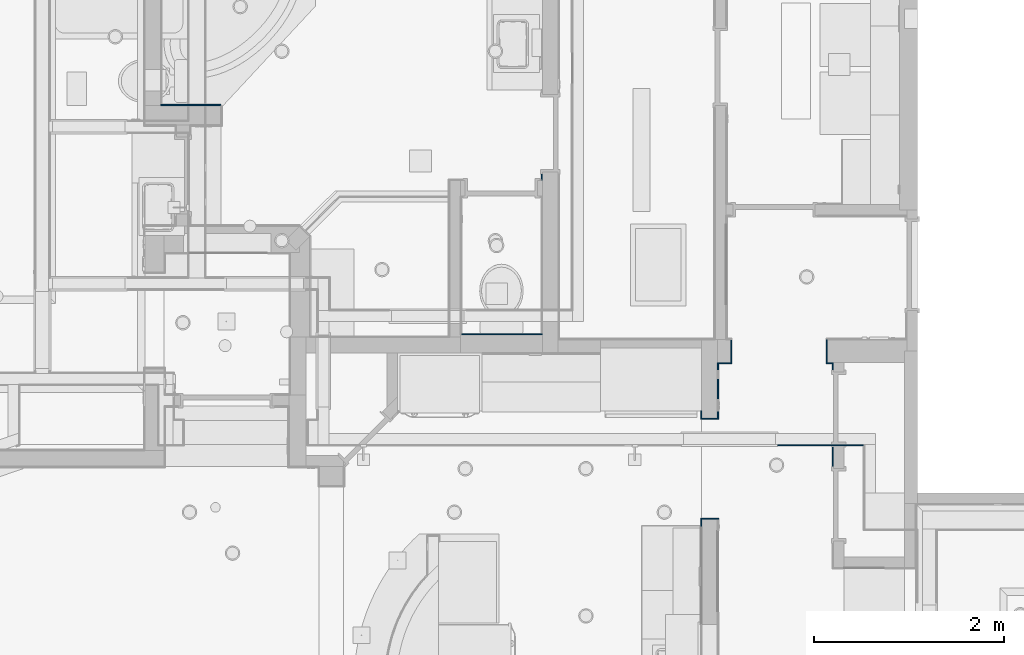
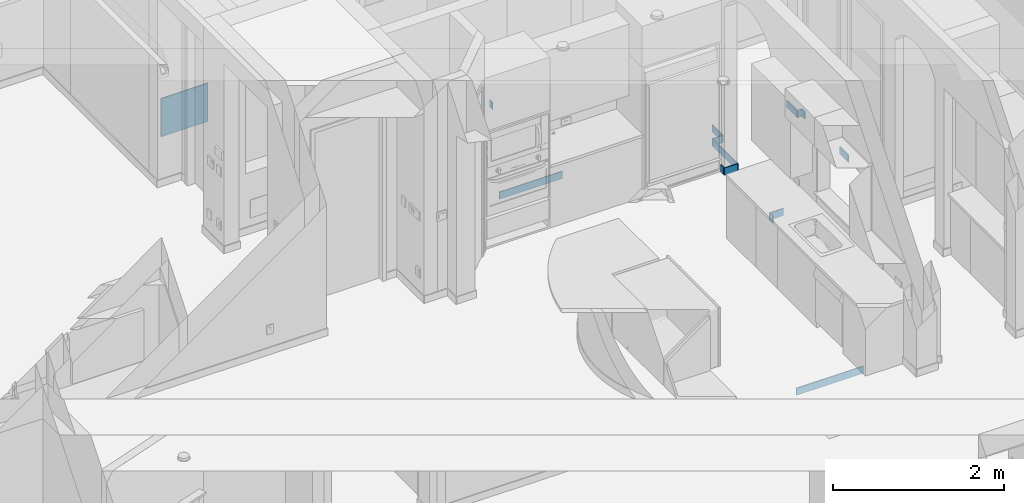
# One storey, part 23 of 60: 15 walls.
"""IFC2X3 building model written with IfcOpenShell, lengths in feet."""

import ifcopenshell
import ifcopenshell.guid

model = None  # the IFC model being written
_history = None  # IfcOwnerHistory: only IFC2X3 demands one
_inside = {}  # id of a spatial element -> (the spatial element, [elements in it])
_under = {}  # id of a project, library or spatial element -> (it, [spatial elements below it])
_declared = {}  # id of a project -> (the project, [libraries it declares])
_typed = {}  # id of a type object -> (the type object, [elements of that type])
_made_of = {}  # id of a material, layer set ... -> (it, [elements and type objects made of it])


def new_model(schema):
    """Start an empty IFC model of exactly this schema.

    Asked for "IFC4X3", IfcOpenShell would pick the latest addendum, in which some entities
    have other attributes; the version numbers below select the first issue.
    IFC2X3 requires an IfcOwnerHistory on every rooted entity: one is made here for all.
    """
    global model, _history
    if schema == "IFC4X3":
        model = ifcopenshell.file(schema_version=(4, 3, 0, 0))
    else:
        model = ifcopenshell.file(schema=schema)
    _inside.clear()
    _under.clear()
    _declared.clear()
    _typed.clear()
    _made_of.clear()
    _history = None
    if model.schema == "IFC2X3":
        org = make("IfcOrganization", Name="unknown")
        user = make(
            "IfcPersonAndOrganization",
            ThePerson=make("IfcPerson", FamilyName="unknown"),
            TheOrganization=org,
        )
        app = make(
            "IfcApplication",
            ApplicationDeveloper=org,
            Version="unknown",
            ApplicationFullName="unknown",
            ApplicationIdentifier="unknown",
        )
        _history = make(
            "IfcOwnerHistory",
            OwningUser=user,
            OwningApplication=app,
            ChangeAction="ADDED",
            CreationDate=0,
        )
    return model


def make(cls, **values):
    """One entity of the class cls with the attributes given. An attribute that is None is left unset."""
    return model.create_entity(
        cls, **{name: value for name, value in values.items() if value is not None}
    )


def entity(cls, *values):
    """Any entity or typed value of the class cls, its attributes in the order of the schema. None: left unset."""
    e = model.create_entity(cls)
    for i, value in enumerate(values):
        if value is not None:
            e[i] = value
    return e


def rooted(cls, **values):
    """An entity with a GlobalId (a new one), such as an element, a storey or a relation."""
    return make(cls, GlobalId=ifcopenshell.guid.new(), OwnerHistory=_history, **values)


def si_unit(unit_type, name, prefix=None):
    """IfcSIUnit, for example si_unit("LENGTHUNIT", "METRE", prefix="MILLI")."""
    return make("IfcSIUnit", UnitType=unit_type, Prefix=prefix, Name=name)


def converted_unit(unit_type, name, factor, base, dimensions=None, offset=None):
    """IfcConversionBasedUnit, such as the inch: factor (a typed value) times the base unit."""
    return make(
        "IfcConversionBasedUnit"
        if offset is None
        else "IfcConversionBasedUnitWithOffset",
        ConversionOffset=offset,
        Dimensions=None
        if dimensions is None
        else entity("IfcDimensionalExponents", *dimensions),
        UnitType=unit_type,
        Name=name,
        ConversionFactor=make(
            "IfcMeasureWithUnit", ValueComponent=factor, UnitComponent=base
        ),
    )


def assignment(units):
    """IfcUnitAssignment: the units of a project."""
    return None if units is None else make("IfcUnitAssignment", Units=units)


def point(xyz):
    """IfcCartesianPoint."""
    return None if xyz is None else make("IfcCartesianPoint", Coordinates=xyz)


def direction(xyz):
    """IfcDirection."""
    return None if xyz is None else make("IfcDirection", DirectionRatios=xyz)


def frame(location, z_axis=None, x_axis=None):
    """IfcAxis2Placement3D, a coordinate frame: its origin and axes. An axis left out is left unset."""
    return make(
        "IfcAxis2Placement3D",
        Location=point(location),
        Axis=direction(z_axis),
        RefDirection=direction(x_axis),
    )


def frame_2d(location, x_axis=None):
    """IfcAxis2Placement2D, a coordinate frame in the plane: its origin and x axis."""
    return make(
        "IfcAxis2Placement2D", Location=point(location), RefDirection=direction(x_axis)
    )


def origin():
    """The frame at (0, 0, 0) with its axes left unset."""
    return frame((0.0, 0.0, 0.0))


def place(relative_to, where):
    """IfcLocalPlacement: puts the frame where relative to a parent placement (None: the world)."""
    return make(
        "IfcLocalPlacement", PlacementRelTo=relative_to, RelativePlacement=where
    )


def context(
    kind, dimensions, precision=None, world=None, true_north=None, identifier=None
):
    """IfcGeometricRepresentationContext, for example the 3D "Model" context."""
    return make(
        "IfcGeometricRepresentationContext",
        ContextIdentifier=identifier,
        ContextType=kind,
        CoordinateSpaceDimension=dimensions,
        Precision=precision,
        WorldCoordinateSystem=world,
        TrueNorth=true_north,
    )


def subcontext(parent, identifier, kind, view, scale=None):
    """IfcGeometricRepresentationSubContext, for example "Body" below "Model"."""
    return make(
        "IfcGeometricRepresentationSubContext",
        ContextIdentifier=identifier,
        ContextType=kind,
        ParentContext=parent,
        TargetScale=scale,
        TargetView=view,
    )


def project(units=None, contexts=None):
    """IfcProject with its units and contexts."""
    return rooted(
        "IfcProject",
        Name="project",
        RepresentationContexts=contexts,
        UnitsInContext=assignment(units),
    )


def spatial(cls, under=None, at=None, **own):
    """A site, building, storey or space (cls), placed at a placement, below another one or the project."""
    s = rooted(cls, ObjectPlacement=at, **own)
    if under is not None:
        _under.setdefault(under.id(), (under, []))[1].append(s)
    return s


def profile(cls, at=None, kind="AREA", **sizes):
    """A parametric profile (cls). Its sizes go by their IFC names, for example OverallWidth=200.0."""
    return make(cls, ProfileType=kind, Position=at, **sizes)


def rectangle(**sizes):
    """IfcRectangleProfileDef."""
    return profile("IfcRectangleProfileDef", **sizes)


def extrude(swept, where, along, depth):
    """IfcExtrudedAreaSolid: the profile swept, set in the frame where, extruded along a direction by depth."""
    return make(
        "IfcExtrudedAreaSolid",
        SweptArea=swept,
        Position=where,
        ExtrudedDirection=direction(along),
        Depth=depth,
    )


def shape(context_of_items, identifier, shape_type, items):
    """IfcShapeRepresentation: the items that make up one representation, for example the "Body"."""
    return make(
        "IfcShapeRepresentation",
        ContextOfItems=context_of_items,
        RepresentationIdentifier=identifier,
        RepresentationType=shape_type,
        Items=items,
    )


def material(Name=None, Category=None):
    """IfcMaterial."""
    return make("IfcMaterial", Name=Name, Category=Category)


def layer(
    of_material, thickness, ventilated=None, Name=None, Category=None, Priority=None
):
    """IfcMaterialLayer: one layer of a wall or slab, of a material (None: an air gap)."""
    return make(
        "IfcMaterialLayer",
        Material=of_material,
        LayerThickness=thickness,
        IsVentilated=ventilated,
        Name=Name,
        Category=Category,
        Priority=Priority,
    )


def layer_set(layers, Name=None):
    """IfcMaterialLayerSet."""
    return make("IfcMaterialLayerSet", MaterialLayers=layers, LayerSetName=Name)


def layer_usage(for_layer_set, set_direction, sense, offset, extent=None):
    """IfcMaterialLayerSetUsage: how a layer set lies in its element."""
    return make(
        "IfcMaterialLayerSetUsage",
        ForLayerSet=for_layer_set,
        LayerSetDirection=set_direction,
        DirectionSense=sense,
        OffsetFromReferenceLine=offset,
        ReferenceExtent=extent,
    )


def made_of(thing, what):
    """Note that an element or type object is made of a material, layer set ...; save() writes the relation."""
    if what is not None:
        _made_of.setdefault(what.id(), (what, []))[1].append(thing)
    return thing


def type_object(cls, material=None, **own):
    """A type object (cls), such as IfcWallType, which elements share."""
    return made_of(rooted(cls, **own), material)


def element(
    cls,
    number,
    at=None,
    inside=None,
    cuts=None,
    type_object=None,
    material=None,
    context=None,
    identifier="Body",
    shape_type=None,
    held_by="IfcProductDefinitionShape",
    body=None,
    shapes=None,
    **own,
):
    """One element of the class cls, such as IfcWall. Its Tag is "e" and its number.

    at: its placement. inside: the storey or other place that contains it. cuts: it is an
    opening in that element (IfcRelVoidsElement). A single representation is given by context,
    identifier, shape_type and body (its items); several are given by shapes. held_by: the class
    of the entity that holds the representations. save() writes the other relations.
    """
    e = rooted(cls, Tag="e%d" % number, ObjectPlacement=at, **own)
    if body is not None:
        shapes = [shape(context, identifier, shape_type, body)]
    if shapes is not None:
        e.Representation = make(held_by, Representations=shapes)
    if inside is not None:
        _inside.setdefault(inside.id(), (inside, []))[1].append(e)
    if cuts is not None:
        rooted(
            "IfcRelVoidsElement", RelatingBuildingElement=cuts, RelatedOpeningElement=e
        )
    if type_object is not None:
        _typed.setdefault(type_object.id(), (type_object, []))[1].append(e)
    return made_of(e, material)


def aggregate(whole, parts):
    """IfcRelAggregates: a whole, such as a stair, and the parts it consists of."""
    return rooted("IfcRelAggregates", RelatingObject=whole, RelatedObjects=parts)


def save(model, path):
    """Write the relations noted so far, then the file.

    IfcRelAggregates (storeys below a building ...), IfcRelContainedInSpatialStructure (elements
    in a storey), IfcRelDefinesByType, IfcRelAssociatesMaterial and IfcRelDeclares: one each for
    every whole, place, type object, material and project.
    """
    for whole, parts in _under.values():
        aggregate(whole, parts)
    for where, things in _inside.values():
        rooted(
            "IfcRelContainedInSpatialStructure",
            RelatedElements=things,
            RelatingStructure=where,
        )
    for kind, things in _typed.values():
        rooted("IfcRelDefinesByType", RelatedObjects=things, RelatingType=kind)
    for what, things in _made_of.values():
        rooted("IfcRelAssociatesMaterial", RelatedObjects=things, RelatingMaterial=what)
    for by, libraries in _declared.values():
        rooted("IfcRelDeclares", RelatingContext=by, RelatedDefinitions=libraries)
    model.write(path)


model = new_model("IFC2X3")

# Units and contexts
model_context = context("Model", 3, precision=0.0001, world=origin(), true_north=direction((6.123031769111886e-17, 1.0)))
plan_context = context("Plan", 3, precision=0.0001, world=origin(), true_north=direction((6.123031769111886e-17, 1.0)))
body_context = subcontext(model_context, "Body", "Model", "MODEL_VIEW")
ifc_project = project(units=[converted_unit("LENGTHUNIT", "FOOT", entity("IfcLengthMeasure", 0.3048), si_unit("LENGTHUNIT", "METRE"), dimensions=[1, 0, 0, 0, 0, 0, 0]), converted_unit("AREAUNIT", "SQUARE FOOT", entity("IfcAreaMeasure", 0.09290304), si_unit("AREAUNIT", "SQUARE_METRE"), dimensions=[2, 0, 0, 0, 0, 0, 0]), converted_unit("PLANEANGLEUNIT", "DEGREE", entity("IfcPlaneAngleMeasure", 0.017453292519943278), si_unit("PLANEANGLEUNIT", "RADIAN"), dimensions=[0, 0, 0, 0, 0, 0, 0])], contexts=[model_context, plan_context])

# Site, building, storey
site_placement = place(None, origin())
site = spatial("IfcSite", under=ifc_project, at=site_placement, Name="Default", CompositionType="ELEMENT")
building_placement = place(site_placement, origin())
building = spatial("IfcBuilding", under=site, at=building_placement, CompositionType="ELEMENT")
storey_placement = place(building_placement, origin())
storey = spatial("IfcBuildingStorey", under=building, at=storey_placement, Name="First floor", CompositionType="ELEMENT", Elevation=0.0)

# Walls
ifc_material = material(Name="Default New Material")
ifc_layer = layer(ifc_material, 0.041666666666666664)
ifc_layer_set = layer_set([ifc_layer], Name="Basic Wall:Wall Border_T1")
ifc_layer_usage_1 = layer_usage(ifc_layer_set, "AXIS2", "POSITIVE", -0.020833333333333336)
wall_type = type_object("IfcWallType", Name="Basic Wall:Wall Border_T1", PredefinedType="STANDARD", material=ifc_layer_set)
wall_1_placement = place(storey_placement, frame((15.541666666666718, 29.770833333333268, 0.0)))
element("IfcWallStandardCase", 1, at=wall_1_placement, inside=storey, type_object=wall_type, material=ifc_layer_usage_1, Name="Basic Wall:Wall Border_T1", ObjectType="Basic Wall:Wall Border_T1", context=body_context, shape_type="SweptSolid", body=[
    extrude(rectangle(XDim=2.9583333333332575, YDim=0.0416666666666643, at=frame_2d((1.4791666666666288, -7.45931094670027e-17), x_axis=(-1.0, 0.0))), origin(), (0.0, 0.0, 1.0), 0.3333333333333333),
])
ifc_layer_usage_2 = layer_usage(ifc_layer_set, "AXIS2", "NEGATIVE", 0.020833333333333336)
wall_2_placement = place(storey_placement, frame((17.229166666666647, 33.416321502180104, 10.666666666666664), z_axis=(0.0, 0.0, 1.0), x_axis=(0.0, -1.0, 0.0)))
element("IfcWallStandardCase", 2, at=wall_2_placement, inside=storey, type_object=wall_type, material=ifc_layer_usage_2, Name="Basic Wall:Wall Border_T1", ObjectType="Basic Wall:Wall Border_T1", context=body_context, shape_type="SweptSolid", body=[
    extrude(rectangle(XDim=0.8333333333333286, YDim=0.0416666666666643, at=frame_2d((0.4166666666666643, -4.2327252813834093e-16), x_axis=(-1.0, 0.0))), origin(), (0.0, 0.0, 1.0), 0.3333333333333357),
])
ifc_layer_usage_3 = layer_usage(ifc_layer_set, "AXIS2", "NEGATIVE", 0.020833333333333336)
wall_3_placement = place(storey_placement, frame((17.249999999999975, 32.603821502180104, 10.666666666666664)))
element("IfcWallStandardCase", 3, at=wall_3_placement, inside=storey, type_object=wall_type, material=ifc_layer_usage_3, Name="Basic Wall:Wall Border_T1", ObjectType="Basic Wall:Wall Border_T1", context=body_context, shape_type="SweptSolid", body=[
    extrude(rectangle(XDim=0.20833333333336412, YDim=0.041666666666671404, at=frame_2d((0.10416666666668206, 5.880712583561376e-16), x_axis=(-1.0, 0.0))), origin(), (0.0, 0.0, 1.0), 0.3333333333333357),
])
ifc_layer_usage_4 = layer_usage(ifc_layer_set, "AXIS2", "NEGATIVE", 0.020833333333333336)
wall_4_placement = place(storey_placement, frame((17.437500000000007, 32.582988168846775, 10.666666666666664), z_axis=(0.0, 0.0, 1.0), x_axis=(0.0, -1.0, 0.0)))
element("IfcWallStandardCase", 4, at=wall_4_placement, inside=storey, type_object=wall_type, material=ifc_layer_usage_4, Name="Basic Wall:Wall Border_T1", ObjectType="Basic Wall:Wall Border_T1", context=body_context, shape_type="SweptSolid", body=[
    extrude(rectangle(XDim=0.2083333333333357, YDim=0.0416666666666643, at=frame_2d((0.10416666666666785, 0.0), x_axis=(-1.0, 0.0))), origin(), (0.0, 0.0, 1.0), 0.3333333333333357),
])
ifc_layer_usage_5 = layer_usage(ifc_layer_set, "AXIS2", "NEGATIVE", 0.020833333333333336)
wall_5_placement = place(storey_placement, frame((17.43750000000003, 29.70798816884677, 10.666666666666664), z_axis=(0.0, 0.0, 1.0), x_axis=(0.0, -1.0, 0.0)))
element("IfcWallStandardCase", 5, at=wall_5_placement, inside=storey, type_object=wall_type, material=ifc_layer_usage_5, Name="Basic Wall:Wall Border_T1", ObjectType="Basic Wall:Wall Border_T1", context=body_context, shape_type="SweptSolid", body=[
    extrude(rectangle(XDim=0.6666666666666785, YDim=0.0416666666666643, at=frame_2d((0.33333333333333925, 0.0), x_axis=(-1.0, 0.0))), origin(), (0.0, 0.0, 1.0), 0.3333333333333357),
])
ifc_layer_usage_6 = layer_usage(ifc_layer_set, "AXIS2", "NEGATIVE", 0.020833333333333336)
wall_6_placement = place(storey_placement, frame((13.937500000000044, 33.41632150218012, 10.666666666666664), z_axis=(0.0, 0.0, 1.0), x_axis=(0.0, -1.0, 0.0)))
element("IfcWallStandardCase", 6, at=wall_6_placement, inside=storey, type_object=wall_type, material=ifc_layer_usage_6, Name="Basic Wall:Wall Border_T1", ObjectType="Basic Wall:Wall Border_T1", context=body_context, shape_type="SweptSolid", body=[
    extrude(rectangle(XDim=0.8333333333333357, YDim=0.04166666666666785, at=frame_2d((0.41666666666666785, 3.5214886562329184e-16), x_axis=(-1.0, 0.0))), origin(), (0.0, 0.0, 1.0), 0.3333333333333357),
])
ifc_layer_usage_7 = layer_usage(ifc_layer_set, "AXIS2", "NEGATIVE", 0.020833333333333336)
wall_7_placement = place(storey_placement, frame((13.916666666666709, 32.60382150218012, 10.666666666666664), z_axis=(0.0, 0.0, 1.0), x_axis=(-1.0, 0.0, 0.0)))
element("IfcWallStandardCase", 7, at=wall_7_placement, inside=storey, type_object=wall_type, material=ifc_layer_usage_7, Name="Basic Wall:Wall Border_T1", ObjectType="Basic Wall:Wall Border_T1", context=body_context, shape_type="SweptSolid", body=[
    extrude(rectangle(XDim=0.458333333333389, YDim=0.041666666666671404, at=frame_2d((0.2291666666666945, 0.0), x_axis=(-1.0, 0.0))), origin(), (0.0, 0.0, 1.0), 0.3333333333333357),
])
ifc_layer_usage_8 = layer_usage(ifc_layer_set, "AXIS2", "NEGATIVE", 0.020833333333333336)
wall_8_placement = place(storey_placement, frame((13.479166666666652, 32.58298816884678, 10.666666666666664), z_axis=(0.0, 0.0, 1.0), x_axis=(0.0, -1.0, 0.0)))
element("IfcWallStandardCase", 8, at=wall_8_placement, inside=storey, type_object=wall_type, material=ifc_layer_usage_8, Name="Basic Wall:Wall Border_T1", ObjectType="Basic Wall:Wall Border_T1", context=body_context, shape_type="SweptSolid", body=[
    extrude(rectangle(XDim=1.9166666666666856, YDim=0.04166666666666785, at=frame_2d((0.9583333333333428, 0.0), x_axis=(-1.0, 0.0))), origin(), (0.0, 0.0, 1.0), 0.3333333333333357),
])
ifc_layer_usage_9 = layer_usage(ifc_layer_set, "AXIS2", "NEGATIVE", 0.020833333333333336)
wall_9_placement = place(storey_placement, frame((12.874999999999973, 27.228821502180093, 10.666666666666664)))
element("IfcWallStandardCase", 9, at=wall_9_placement, inside=storey, type_object=wall_type, material=ifc_layer_usage_9, Name="Basic Wall:Wall Border_T1", ObjectType="Basic Wall:Wall Border_T1", context=body_context, shape_type="SweptSolid", body=[
    extrude(rectangle(XDim=0.6250000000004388, YDim=0.0416666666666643, at=frame_2d((0.3125000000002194, 1.0477729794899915e-15), x_axis=(-1.0, 0.0))), origin(), (0.0, 0.0, 1.0), 0.3333333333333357),
])
ifc_layer_usage_10 = layer_usage(ifc_layer_set, "AXIS2", "NEGATIVE", 0.020833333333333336)
wall_10_placement = place(storey_placement, frame((-3.687499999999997, 41.5204881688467, 12.416666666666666), z_axis=(0.0, 0.0, 1.0), x_axis=(-1.0, 0.0, 0.0)))
element("IfcWallStandardCase", 10, at=wall_10_placement, inside=storey, type_object=wall_type, material=ifc_layer_usage_10, Name="Basic Wall:Wall Border_T1", ObjectType="Basic Wall:Wall Border_T1", context=body_context, shape_type="SweptSolid", body=[
    extrude(rectangle(XDim=2.0833333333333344, YDim=0.041666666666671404, at=frame_2d((1.0416666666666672, -3.642919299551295e-17), x_axis=(-1.0, 0.0))), origin(), (0.0, 0.0, 1.0), 1.7916666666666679),
])
ifc_layer_usage_11 = layer_usage(ifc_layer_set, "AXIS2", "NEGATIVE", 0.020833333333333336)
wall_11_placement = place(storey_placement, frame((7.395833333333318, 39.124654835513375, 10.666666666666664), z_axis=(0.0, 0.0, 1.0), x_axis=(0.0, -1.0, 0.0)))
element("IfcWallStandardCase", 11, at=wall_11_placement, inside=storey, type_object=wall_type, material=ifc_layer_usage_11, Name="Basic Wall:Wall Border_T1", ObjectType="Basic Wall:Wall Border_T1", context=body_context, shape_type="SweptSolid", body=[
    extrude(rectangle(XDim=0.20833333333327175, YDim=0.041666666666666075, at=frame_2d((0.10416666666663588, 4.85722573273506e-17), x_axis=(-1.0, 0.0))), origin(), (0.0, 0.0, 1.0), 0.3333333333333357),
])
ifc_layer_usage_12 = layer_usage(ifc_layer_set, "AXIS2", "NEGATIVE", 0.020833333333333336)
wall_12_placement = place(storey_placement, frame((4.624999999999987, 33.60416666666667, 10.666666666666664)))
element("IfcWallStandardCase", 12, at=wall_12_placement, inside=storey, type_object=wall_type, material=ifc_layer_usage_12, Name="Basic Wall:Wall Border_T1", ObjectType="Basic Wall:Wall Border_T1", context=body_context, shape_type="SweptSolid", body=[
    extrude(rectangle(XDim=2.79166666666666, YDim=0.041666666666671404, at=frame_2d((1.39583333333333, 0.0), x_axis=(-1.0, 0.0))), origin(), (0.0, 0.0, 1.0), 0.3333333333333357),
])
ifc_layer_usage_13 = layer_usage(ifc_layer_set, "AXIS2", "NEGATIVE", 0.020833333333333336)
wall_13_placement = place(storey_placement, frame((13.45833333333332, 30.68715483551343, 10.666666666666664), z_axis=(0.0, 0.0, 1.0), x_axis=(-1.0, 0.0, 0.0)))
element("IfcWallStandardCase", 13, at=wall_13_placement, inside=storey, type_object=wall_type, material=ifc_layer_usage_13, Name="Basic Wall:Wall Border_T1", ObjectType="Basic Wall:Wall Border_T1", context=body_context, shape_type="SweptSolid", body=[
    extrude(rectangle(XDim=0.5833333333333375, YDim=0.0416666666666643, at=frame_2d((0.29166666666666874, 0.0), x_axis=(-1.0, 0.0))), origin(), (0.0, 0.0, 1.0), 0.3333333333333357),
])
ifc_layer_usage_14 = layer_usage(ifc_layer_set, "AXIS2", "NEGATIVE", 0.020833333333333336)
wall_14_placement = place(storey_placement, frame((12.895833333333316, 30.707988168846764, 10.666666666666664), z_axis=(0.0, 0.0, 1.0), x_axis=(0.0, 1.0, 0.0)))
element("IfcWallStandardCase", 14, at=wall_14_placement, inside=storey, type_object=wall_type, material=ifc_layer_usage_14, Name="Basic Wall:Wall Border_T1", ObjectType="Basic Wall:Wall Border_T1", context=body_context, shape_type="SweptSolid", body=[
    extrude(rectangle(XDim=0.2503451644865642, YDim=0.04166666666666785, at=frame_2d((0.1251725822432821, 0.0), x_axis=(-1.0, 0.0))), origin(), (0.0, 0.0, 1.0), 0.3333333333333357),
])
ifc_layer_usage_15 = layer_usage(ifc_layer_set, "AXIS2", "NEGATIVE", 0.020833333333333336)
wall_15_placement = place(storey_placement, frame((12.895833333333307, 27.207988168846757, 10.666666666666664), z_axis=(0.0, 0.0, 1.0), x_axis=(0.0, -1.0, 0.0)))
element("IfcWallStandardCase", 15, at=wall_15_placement, inside=storey, type_object=wall_type, material=ifc_layer_usage_15, Name="Basic Wall:Wall Border_T1", ObjectType="Basic Wall:Wall Border_T1", context=body_context, shape_type="SweptSolid", body=[
    extrude(rectangle(XDim=0.22916666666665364, YDim=0.04166666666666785, at=frame_2d((0.11458333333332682, -8.153200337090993e-16), x_axis=(-1.0, 0.0))), origin(), (0.0, 0.0, 1.0), 0.3333333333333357),
])

save(model, "model.ifc")
